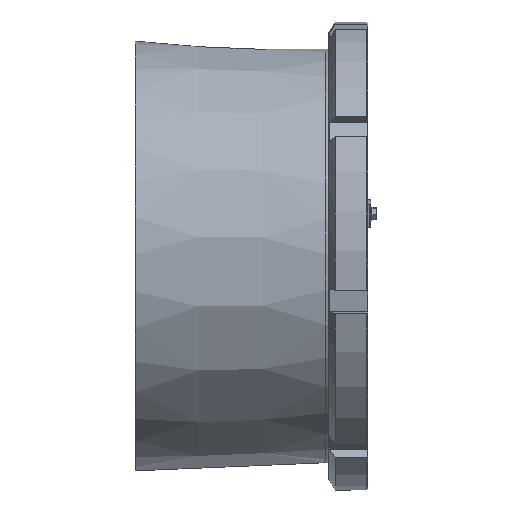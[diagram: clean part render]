
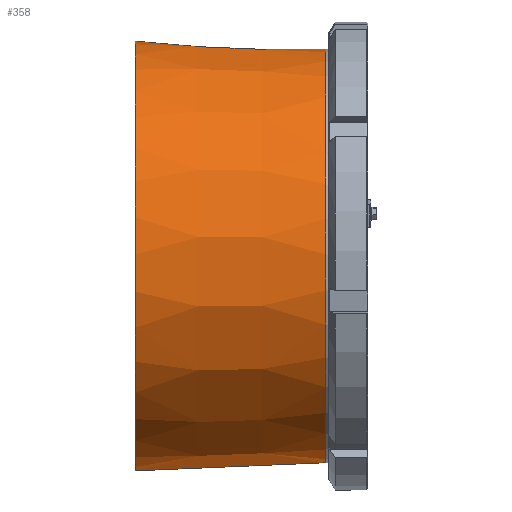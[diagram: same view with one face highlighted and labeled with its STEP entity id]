
A CAD part, top view. The second image highlights one B-rep face of the part: STEP entity #358.
In plain terms, the highlighted conical face has half-angle 2.425 degrees and reference radius 530 mm.
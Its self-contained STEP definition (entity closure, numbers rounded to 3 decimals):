
#358 = ADVANCED_FACE( '', ( #766 ), #767, .T. );
#766 = FACE_OUTER_BOUND( '', #1478, .T. );
#767 = CONICAL_SURFACE( '', #1479, 530., 0.042 );
#1478 = EDGE_LOOP( '', ( #2627, #2628, #2629, #2630 ) );
#1479 = AXIS2_PLACEMENT_3D( '', #2631, #2632, #2633 );
#2627 = ORIENTED_EDGE( '', *, *, #4854, .F. );
#2628 = ORIENTED_EDGE( '', *, *, #4884, .F. );
#2629 = ORIENTED_EDGE( '', *, *, #4885, .T. );
#2630 = ORIENTED_EDGE( '', *, *, #4886, .T. );
#2631 = CARTESIAN_POINT( '', ( -108., 0., 0. ) );
#2632 = DIRECTION( '', ( -1., 0., 0. ) );
#2633 = DIRECTION( '', ( 0., 0., 1. ) );
#4854 = EDGE_CURVE( '', #5806, #5808, #5809, .T. );
#4884 = EDGE_CURVE( '', #5856, #5806, #5857, .T. );
#4885 = EDGE_CURVE( '', #5856, #5858, #5859, .T. );
#4886 = EDGE_CURVE( '', #5858, #5808, #5860, .T. );
#5806 = VERTEX_POINT( '', #7343 );
#5808 = VERTEX_POINT( '', #7346 );
#5809 = B_SPLINE_CURVE_WITH_KNOTS( '', 3, ( #7347, #7348, #7349, #7350, #7351, #7352, #7353 ), .UNSPECIFIED., .F., .F., ( 4, 3, 4 ), ( 0.626, 1.052, 1.115 ), .UNSPECIFIED. );
#5856 = VERTEX_POINT( '', #7425 );
#5857 = CIRCLE( '', #7426, 530. );
#5858 = VERTEX_POINT( '', #7427 );
#5859 = B_SPLINE_CURVE_WITH_KNOTS( '', 3, ( #7428, #7429, #7430, #7431, #7432, #7433, #7434 ), .UNSPECIFIED., .F., .F., ( 4, 3, 4 ), ( 0.626, 1.052, 1.115 ), .UNSPECIFIED. );
#5860 = CIRCLE( '', #7435, 550.709 );
#7343 = CARTESIAN_POINT( '', ( -108., -529.966, 6. ) );
#7346 = CARTESIAN_POINT( '', ( -597., -550.676, 6. ) );
#7347 = CARTESIAN_POINT( '', ( -108., -529.966, 6. ) );
#7348 = CARTESIAN_POINT( '', ( -249.692, -535.967, 6. ) );
#7349 = CARTESIAN_POINT( '', ( -391.384, -541.968, 6. ) );
#7350 = CARTESIAN_POINT( '', ( -533.076, -547.969, 6. ) );
#7351 = CARTESIAN_POINT( '', ( -554.384, -548.871, 6. ) );
#7352 = CARTESIAN_POINT( '', ( -575.692, -549.773, 6. ) );
#7353 = CARTESIAN_POINT( '', ( -597., -550.676, 6. ) );
#7425 = CARTESIAN_POINT( '', ( -108., -529.966, -6. ) );
#7426 = AXIS2_PLACEMENT_3D( '', #9432, #9433, #9434 );
#7427 = CARTESIAN_POINT( '', ( -597., -550.676, -6. ) );
#7428 = CARTESIAN_POINT( '', ( -108., -529.966, -6. ) );
#7429 = CARTESIAN_POINT( '', ( -249.692, -535.967, -6. ) );
#7430 = CARTESIAN_POINT( '', ( -391.384, -541.968, -6. ) );
#7431 = CARTESIAN_POINT( '', ( -533.076, -547.969, -6. ) );
#7432 = CARTESIAN_POINT( '', ( -554.384, -548.871, -6. ) );
#7433 = CARTESIAN_POINT( '', ( -575.692, -549.773, -6. ) );
#7434 = CARTESIAN_POINT( '', ( -597., -550.676, -6. ) );
#7435 = AXIS2_PLACEMENT_3D( '', #9435, #9436, #9437 );
#9432 = CARTESIAN_POINT( '', ( -108., 0., 0. ) );
#9433 = DIRECTION( '', ( 1., 0., 0. ) );
#9434 = DIRECTION( '', ( 0., 0., -1. ) );
#9435 = CARTESIAN_POINT( '', ( -597., 0., 0. ) );
#9436 = DIRECTION( '', ( 1., 0., 0. ) );
#9437 = DIRECTION( '', ( 0., 0., -1. ) );
